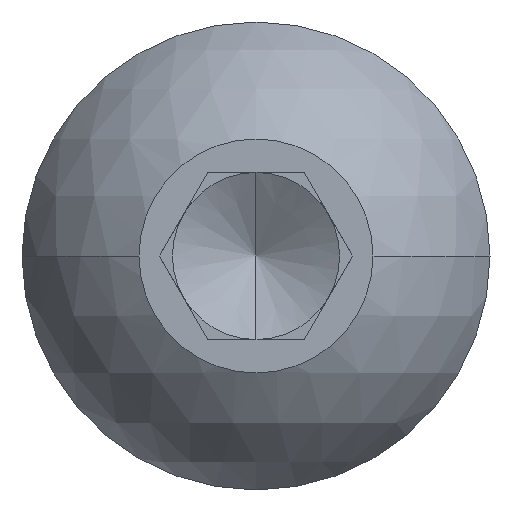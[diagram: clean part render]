
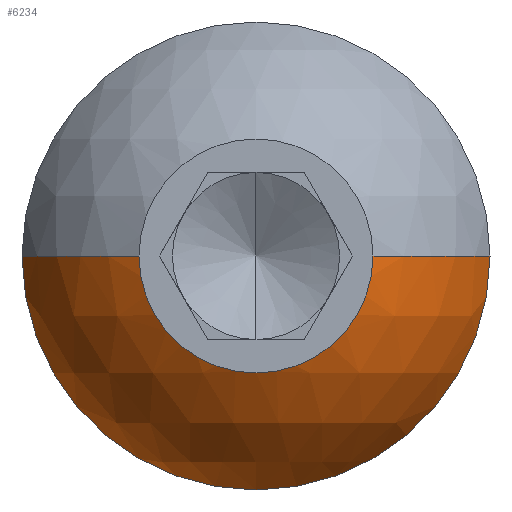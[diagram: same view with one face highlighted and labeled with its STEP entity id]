
A CAD part, left-side view. The second image highlights one B-rep face of the part: STEP entity #6234.
In plain terms, the highlighted spherical face has radius 7.454 mm.
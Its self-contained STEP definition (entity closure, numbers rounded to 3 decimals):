
#204 = VERTEX_POINT ( 'NONE', #1095 ) ;
#386 = CARTESIAN_POINT ( 'NONE',  ( 4.02, 0., 0. ) ) ;
#648 = DIRECTION ( 'NONE',  ( 0., 0., -1. ) ) ;
#667 = DIRECTION ( 'NONE',  ( 1., 0., 0. ) ) ;
#827 = EDGE_CURVE ( 'NONE', #7431, #3629, #4984, .T. ) ;
#995 = ORIENTED_EDGE ( 'NONE', *, *, #827, .T. ) ;
#1095 = CARTESIAN_POINT ( 'NONE',  ( 4.02, 0., -7. ) ) ;
#1292 = AXIS2_PLACEMENT_3D ( 'NONE', #6674, #6534, #7420 ) ;
#1382 = DIRECTION ( 'NONE',  ( 0., 0., 1. ) ) ;
#1530 = AXIS2_PLACEMENT_3D ( 'NONE', #386, #8394, #4870 ) ;
#1741 = AXIS2_PLACEMENT_3D ( 'NONE', #5550, #8411, #667 ) ;
#1796 = CARTESIAN_POINT ( 'NONE',  ( 4.02, 7., 0. ) ) ;
#1832 = ORIENTED_EDGE ( 'NONE', *, *, #7127, .T. ) ;
#1876 = FACE_OUTER_BOUND ( 'NONE', #2869, .T. ) ;
#2869 = EDGE_LOOP ( 'NONE', ( #1832, #5114, #995, #7017, #5259 ) ) ;
#3098 = CARTESIAN_POINT ( 'NONE',  ( 4.02, -7., 0. ) ) ;
#3476 = CIRCLE ( 'NONE', #1530, 7. ) ;
#3592 = CARTESIAN_POINT ( 'NONE',  ( 6.581, 0., 0. ) ) ;
#3629 = VERTEX_POINT ( 'NONE', #8593 ) ;
#3981 = CIRCLE ( 'NONE', #6077, 7. ) ;
#4169 = DIRECTION ( 'NONE',  ( 0., 1., 0. ) ) ;
#4830 = DIRECTION ( 'NONE',  ( 0., 0., -1. ) ) ;
#4870 = DIRECTION ( 'NONE',  ( 0., 0., 1. ) ) ;
#4887 = VERTEX_POINT ( 'NONE', #8342 ) ;
#4984 = CIRCLE ( 'NONE', #5735, 7.454 ) ;
#5114 = ORIENTED_EDGE ( 'NONE', *, *, #6051, .T. ) ;
#5259 = ORIENTED_EDGE ( 'NONE', *, *, #9186, .F. ) ;
#5550 = CARTESIAN_POINT ( 'NONE',  ( 6.581, 0., 0. ) ) ;
#5735 = AXIS2_PLACEMENT_3D ( 'NONE', #7258, #4830, #4169 ) ;
#5785 = CIRCLE ( 'NONE', #1741, 7.454 ) ;
#6051 = EDGE_CURVE ( 'NONE', #204, #7431, #3981, .T. ) ;
#6077 = AXIS2_PLACEMENT_3D ( 'NONE', #7815, #6446, #1382 ) ;
#6234 = ADVANCED_FACE ( 'NONE', ( #1876 ), #7088, .T. ) ;
#6418 = DIRECTION ( 'NONE',  ( 0., 1., 0. ) ) ;
#6446 = DIRECTION ( 'NONE',  ( -1., 0., 0. ) ) ;
#6534 = DIRECTION ( 'NONE',  ( -1., 0., 0. ) ) ;
#6674 = CARTESIAN_POINT ( 'NONE',  ( 0., 0., 0. ) ) ;
#6812 = EDGE_CURVE ( 'NONE', #4887, #3629, #6991, .T. ) ;
#6978 = VERTEX_POINT ( 'NONE', #1796 ) ;
#6991 = CIRCLE ( 'NONE', #1292, 3.5 ) ;
#7017 = ORIENTED_EDGE ( 'NONE', *, *, #6812, .F. ) ;
#7088 = SPHERICAL_SURFACE ( 'NONE', #8181, 7.454 ) ;
#7127 = EDGE_CURVE ( 'NONE', #6978, #204, #3476, .T. ) ;
#7258 = CARTESIAN_POINT ( 'NONE',  ( 6.581, 0., 0. ) ) ;
#7420 = DIRECTION ( 'NONE',  ( 0., 0., 1. ) ) ;
#7431 = VERTEX_POINT ( 'NONE', #3098 ) ;
#7815 = CARTESIAN_POINT ( 'NONE',  ( 4.02, 0., 0. ) ) ;
#8181 = AXIS2_PLACEMENT_3D ( 'NONE', #3592, #648, #6418 ) ;
#8342 = CARTESIAN_POINT ( 'NONE',  ( 0., 3.5, 0. ) ) ;
#8394 = DIRECTION ( 'NONE',  ( -1., 0., 0. ) ) ;
#8411 = DIRECTION ( 'NONE',  ( 0., 0., 1. ) ) ;
#8593 = CARTESIAN_POINT ( 'NONE',  ( 0., -3.5, 0. ) ) ;
#9186 = EDGE_CURVE ( 'NONE', #6978, #4887, #5785, .T. ) ;
